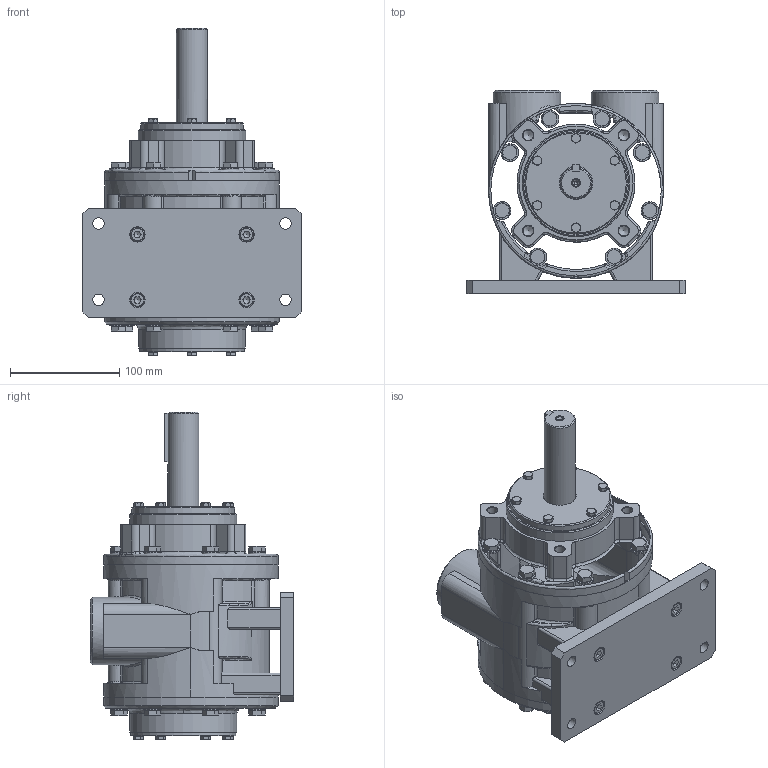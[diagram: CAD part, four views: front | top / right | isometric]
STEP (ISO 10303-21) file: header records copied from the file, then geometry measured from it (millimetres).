
FILE_DESCRIPTION (( 'STEP AP214' ), '1' );
FILE_NAME ('VA10J Defeature.STEP', '2022-06-14T09:53:31', ( '' ), ( '' ), 'SwSTEP 2.0', 'SolidWorks 2020', '' );
FILE_SCHEMA (( 'AUTOMOTIVE_DESIGN' ));
Length unit declared in the file: millimetre
Products named in the file (1): VA10J Defeature
Bounding box: 200 x 186.5 x 300.2 mm (x, y, z)
Volume: 3818362.2 mm3; surface area: 220312.5 mm2
Topology: 1 solids, 1 shells, 1052 faces, 2530 edges, 1493 vertices
Faces by surface type: plane 537, cone 195, cylinder 189, bspline 115, sphere 16
Full cylindrical faces by diameter (mm): 3 x1, 8 x13, 9.347 x4, 10.5 x4, 13 x20, 14 x4, 16 x16, 28.575 x1, 30 x1, 30.5 x1, 38.952 x2, 62 x2, 94 x1, 96 x1, 98 x1, 98.4 x1, 158 x2, 160 x3
Entity records: 51812 total; most frequent: CARTESIAN_POINT 26511, ORIENTED_EDGE 4656, DIRECTION 4210, EDGE_CURVE 2328, AXIS2_PLACEMENT_3D 1662, VERTEX_POINT 1428, EDGE_LOOP 1216, FACE_OUTER_BOUND 1130
